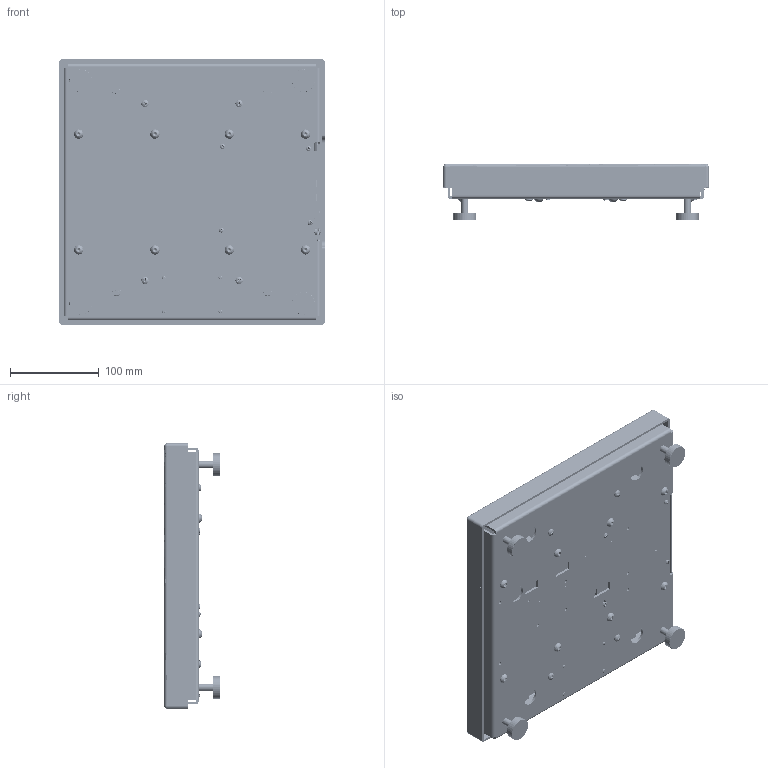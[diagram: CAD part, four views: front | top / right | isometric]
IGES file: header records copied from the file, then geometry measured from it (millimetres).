
Start section: SolidWorks IGES file using analytic representation for surfaces
Global section: file name: C:\0_Work\SolidWorks\~0_E-Scales\12x12\E-SCALE-6610-1212-66.IGS; native system: SolidWorks 2017; preprocessor: SolidWorks 2017; author: vach01; date: 190829.151433; units: inch
Bounding box: 298.32 x 62.96 x 298.19 mm (x, y, z)
Surface area: 651301.5 mm2 (no closed solid volume)
Topology: 0 solids, 0 shells, 18804 faces, 146505 edges, 146350 vertices
Faces by surface type: bspline 15339, revolution 3465
